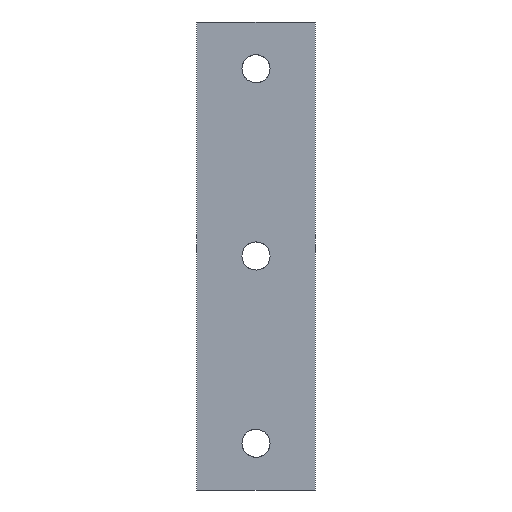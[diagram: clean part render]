
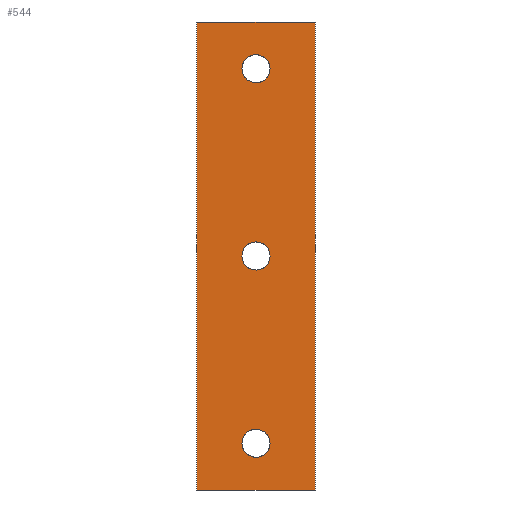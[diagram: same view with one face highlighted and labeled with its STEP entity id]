
A CAD part, front view. The second image highlights one B-rep face of the part: STEP entity #544.
In plain terms, the highlighted face is a extrusion surface.
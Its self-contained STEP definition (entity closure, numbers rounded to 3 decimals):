
#397=CARTESIAN_POINT('Control Point',(-38.,0.,0.)) ;
#398=CARTESIAN_POINT('Control Point',(-38.,0.,-150.)) ;
#402=CARTESIAN_POINT('Line Origine',(-19.,0.,-150.)) ;
#406=CARTESIAN_POINT('Vertex',(-38.,0.,-150.)) ;
#408=CARTESIAN_POINT('Vertex',(0.,0.,-150.)) ;
#411=CARTESIAN_POINT('Line Origine',(0.,0.,-75.)) ;
#415=CARTESIAN_POINT('Vertex',(0.,0.,0.)) ;
#418=CARTESIAN_POINT('Line Origine',(-19.,0.,0.)) ;
#422=CARTESIAN_POINT('Vertex',(-38.,0.,0.)) ;
#425=CARTESIAN_POINT('Line Origine',(-38.,0.,-75.)) ;
#437=CARTESIAN_POINT('Control Point',(-14.5,0.,-75.)) ;
#438=CARTESIAN_POINT('Control Point',(-14.5,0.,-76.247)) ;
#439=CARTESIAN_POINT('Control Point',(-14.932,0.,-77.494)) ;
#440=CARTESIAN_POINT('Control Point',(-15.8,0.,-78.539)) ;
#441=CARTESIAN_POINT('Control Point',(-17.71,0.,-79.63)) ;
#442=CARTESIAN_POINT('Control Point',(-19.841,0.,-79.54)) ;
#443=CARTESIAN_POINT('Control Point',(-20.671,0.,-79.305)) ;
#444=CARTESIAN_POINT('Control Point',(-22.085,0.,-78.511)) ;
#445=CARTESIAN_POINT('Control Point',(-23.032,0.,-77.204)) ;
#446=CARTESIAN_POINT('Control Point',(-23.344,0.,-76.498)) ;
#447=CARTESIAN_POINT('Control Point',(-23.5,0.,-75.749)) ;
#448=CARTESIAN_POINT('Control Point',(-23.5,0.,-75.)) ;
#449=CARTESIAN_POINT('Vertex',(-14.5,0.,-75.)) ;
#451=CARTESIAN_POINT('Vertex',(-23.5,0.,-75.)) ;
#455=CARTESIAN_POINT('Control Point',(-23.5,0.,-75.)) ;
#456=CARTESIAN_POINT('Control Point',(-23.5,0.,-73.753)) ;
#457=CARTESIAN_POINT('Control Point',(-23.068,0.,-72.506)) ;
#458=CARTESIAN_POINT('Control Point',(-22.2,0.,-71.461)) ;
#459=CARTESIAN_POINT('Control Point',(-20.29,0.,-70.37)) ;
#460=CARTESIAN_POINT('Control Point',(-18.159,0.,-70.46)) ;
#461=CARTESIAN_POINT('Control Point',(-17.329,0.,-70.695)) ;
#462=CARTESIAN_POINT('Control Point',(-15.915,0.,-71.489)) ;
#463=CARTESIAN_POINT('Control Point',(-14.968,0.,-72.796)) ;
#464=CARTESIAN_POINT('Control Point',(-14.656,0.,-73.502)) ;
#465=CARTESIAN_POINT('Control Point',(-14.5,0.,-74.251)) ;
#466=CARTESIAN_POINT('Control Point',(-14.5,0.,-75.)) ;
#473=CARTESIAN_POINT('Control Point',(-14.5,0.,-135.)) ;
#474=CARTESIAN_POINT('Control Point',(-14.5,0.,-136.247)) ;
#475=CARTESIAN_POINT('Control Point',(-14.932,0.,-137.494)) ;
#476=CARTESIAN_POINT('Control Point',(-15.8,0.,-138.539)) ;
#477=CARTESIAN_POINT('Control Point',(-17.71,0.,-139.63)) ;
#478=CARTESIAN_POINT('Control Point',(-19.841,0.,-139.54)) ;
#479=CARTESIAN_POINT('Control Point',(-20.671,0.,-139.305)) ;
#480=CARTESIAN_POINT('Control Point',(-22.085,0.,-138.511)) ;
#481=CARTESIAN_POINT('Control Point',(-23.032,0.,-137.204)) ;
#482=CARTESIAN_POINT('Control Point',(-23.344,0.,-136.498)) ;
#483=CARTESIAN_POINT('Control Point',(-23.5,0.,-135.749)) ;
#484=CARTESIAN_POINT('Control Point',(-23.5,0.,-135.)) ;
#485=CARTESIAN_POINT('Vertex',(-14.5,0.,-135.)) ;
#487=CARTESIAN_POINT('Vertex',(-23.5,0.,-135.)) ;
#491=CARTESIAN_POINT('Control Point',(-23.5,0.,-135.)) ;
#492=CARTESIAN_POINT('Control Point',(-23.5,0.,-133.753)) ;
#493=CARTESIAN_POINT('Control Point',(-23.068,0.,-132.506)) ;
#494=CARTESIAN_POINT('Control Point',(-22.2,0.,-131.461)) ;
#495=CARTESIAN_POINT('Control Point',(-20.29,0.,-130.37)) ;
#496=CARTESIAN_POINT('Control Point',(-18.159,0.,-130.46)) ;
#497=CARTESIAN_POINT('Control Point',(-17.329,0.,-130.695)) ;
#498=CARTESIAN_POINT('Control Point',(-15.915,0.,-131.489)) ;
#499=CARTESIAN_POINT('Control Point',(-14.968,0.,-132.796)) ;
#500=CARTESIAN_POINT('Control Point',(-14.656,0.,-133.502)) ;
#501=CARTESIAN_POINT('Control Point',(-14.5,0.,-134.251)) ;
#502=CARTESIAN_POINT('Control Point',(-14.5,0.,-135.)) ;
#509=CARTESIAN_POINT('Control Point',(-14.5,0.,-15.)) ;
#510=CARTESIAN_POINT('Control Point',(-14.5,0.,-16.247)) ;
#511=CARTESIAN_POINT('Control Point',(-14.932,0.,-17.494)) ;
#512=CARTESIAN_POINT('Control Point',(-15.8,0.,-18.539)) ;
#513=CARTESIAN_POINT('Control Point',(-17.71,0.,-19.63)) ;
#514=CARTESIAN_POINT('Control Point',(-19.841,0.,-19.54)) ;
#515=CARTESIAN_POINT('Control Point',(-20.671,0.,-19.305)) ;
#516=CARTESIAN_POINT('Control Point',(-22.085,0.,-18.511)) ;
#517=CARTESIAN_POINT('Control Point',(-23.032,0.,-17.204)) ;
#518=CARTESIAN_POINT('Control Point',(-23.344,0.,-16.498)) ;
#519=CARTESIAN_POINT('Control Point',(-23.5,0.,-15.749)) ;
#520=CARTESIAN_POINT('Control Point',(-23.5,0.,-15.)) ;
#521=CARTESIAN_POINT('Vertex',(-14.5,0.,-15.)) ;
#523=CARTESIAN_POINT('Vertex',(-23.5,0.,-15.)) ;
#527=CARTESIAN_POINT('Control Point',(-23.5,0.,-15.)) ;
#528=CARTESIAN_POINT('Control Point',(-23.5,0.,-13.753)) ;
#529=CARTESIAN_POINT('Control Point',(-23.068,0.,-12.506)) ;
#530=CARTESIAN_POINT('Control Point',(-22.2,0.,-11.461)) ;
#531=CARTESIAN_POINT('Control Point',(-20.29,0.,-10.37)) ;
#532=CARTESIAN_POINT('Control Point',(-18.159,0.,-10.46)) ;
#533=CARTESIAN_POINT('Control Point',(-17.329,0.,-10.695)) ;
#534=CARTESIAN_POINT('Control Point',(-15.915,0.,-11.489)) ;
#535=CARTESIAN_POINT('Control Point',(-14.968,0.,-12.796)) ;
#536=CARTESIAN_POINT('Control Point',(-14.656,0.,-13.502)) ;
#537=CARTESIAN_POINT('Control Point',(-14.5,0.,-14.251)) ;
#538=CARTESIAN_POINT('Control Point',(-14.5,0.,-15.)) ;
#399=DIRECTION('Vector Direction',(1.,0.,0.)) ;
#403=DIRECTION('Vector Direction',(1.,0.,0.)) ;
#412=DIRECTION('Vector Direction',(0.,0.,-1.)) ;
#419=DIRECTION('Vector Direction',(1.,0.,0.)) ;
#426=DIRECTION('Vector Direction',(0.,0.,-1.)) ;
#431=ORIENTED_EDGE('',*,*,#410,.T.) ;
#432=ORIENTED_EDGE('',*,*,#417,.T.) ;
#433=ORIENTED_EDGE('',*,*,#424,.T.) ;
#434=ORIENTED_EDGE('',*,*,#429,.T.) ;
#469=ORIENTED_EDGE('',*,*,#453,.T.) ;
#470=ORIENTED_EDGE('',*,*,#467,.T.) ;
#505=ORIENTED_EDGE('',*,*,#489,.T.) ;
#506=ORIENTED_EDGE('',*,*,#503,.T.) ;
#541=ORIENTED_EDGE('',*,*,#525,.T.) ;
#542=ORIENTED_EDGE('',*,*,#539,.T.) ;
#471=FACE_BOUND('',#468,.T.) ;
#507=FACE_BOUND('',#504,.T.) ;
#543=FACE_BOUND('',#540,.T.) ;
#400=VECTOR('Extrusion Surface Vector',#399,1.) ;
#404=VECTOR('Line Direction',#403,1.) ;
#413=VECTOR('Line Direction',#412,1.) ;
#420=VECTOR('Line Direction',#419,1.) ;
#427=VECTOR('Line Direction',#426,1.) ;
#544=ADVANCED_FACE('Superficie.6',(#435,#471,#507,#543),#401,.T.) ;
#396=B_SPLINE_CURVE_WITH_KNOTS('',1,(#397,#398),.UNSPECIFIED.,.F.,.U.,(2,2),(-75.,75.),.UNSPECIFIED.) ;
#436=B_SPLINE_CURVE_WITH_KNOTS('',5,(#437,#438,#439,#440,#441,#442,#443,#444,#445,#446,#447,#448),.UNSPECIFIED.,.F.,.U.,(6,3,3,6),(0.,8.818,14.697,19.993),.UNSPECIFIED.) ;
#454=B_SPLINE_CURVE_WITH_KNOTS('',5,(#455,#456,#457,#458,#459,#460,#461,#462,#463,#464,#465,#466),.UNSPECIFIED.,.F.,.U.,(6,3,3,6),(0.,8.818,14.697,19.993),.UNSPECIFIED.) ;
#472=B_SPLINE_CURVE_WITH_KNOTS('',5,(#473,#474,#475,#476,#477,#478,#479,#480,#481,#482,#483,#484),.UNSPECIFIED.,.F.,.U.,(6,3,3,6),(0.,8.818,14.697,19.993),.UNSPECIFIED.) ;
#490=B_SPLINE_CURVE_WITH_KNOTS('',5,(#491,#492,#493,#494,#495,#496,#497,#498,#499,#500,#501,#502),.UNSPECIFIED.,.F.,.U.,(6,3,3,6),(0.,8.818,14.697,19.993),.UNSPECIFIED.) ;
#508=B_SPLINE_CURVE_WITH_KNOTS('',5,(#509,#510,#511,#512,#513,#514,#515,#516,#517,#518,#519,#520),.UNSPECIFIED.,.F.,.U.,(6,3,3,6),(0.,8.818,14.697,19.993),.UNSPECIFIED.) ;
#526=B_SPLINE_CURVE_WITH_KNOTS('',5,(#527,#528,#529,#530,#531,#532,#533,#534,#535,#536,#537,#538),.UNSPECIFIED.,.F.,.U.,(6,3,3,6),(0.,8.818,14.697,19.993),.UNSPECIFIED.) ;
#410=EDGE_CURVE('',#407,#409,#405,.T.) ;
#417=EDGE_CURVE('',#409,#416,#414,.F.) ;
#424=EDGE_CURVE('',#416,#423,#421,.F.) ;
#429=EDGE_CURVE('',#423,#407,#428,.T.) ;
#453=EDGE_CURVE('',#450,#452,#436,.T.) ;
#467=EDGE_CURVE('',#452,#450,#454,.T.) ;
#489=EDGE_CURVE('',#486,#488,#472,.T.) ;
#503=EDGE_CURVE('',#488,#486,#490,.T.) ;
#525=EDGE_CURVE('',#522,#524,#508,.T.) ;
#539=EDGE_CURVE('',#524,#522,#526,.T.) ;
#430=EDGE_LOOP('',(#431,#432,#433,#434)) ;
#468=EDGE_LOOP('',(#469,#470)) ;
#504=EDGE_LOOP('',(#505,#506)) ;
#540=EDGE_LOOP('',(#541,#542)) ;
#435=FACE_OUTER_BOUND('',#430,.T.) ;
#405=LINE('Line',#402,#404) ;
#414=LINE('Line',#411,#413) ;
#421=LINE('Line',#418,#420) ;
#428=LINE('Line',#425,#427) ;
#401=SURFACE_OF_LINEAR_EXTRUSION('generated tabulated cylinder',#396,#400) ;
#407=VERTEX_POINT('',#406) ;
#409=VERTEX_POINT('',#408) ;
#416=VERTEX_POINT('',#415) ;
#423=VERTEX_POINT('',#422) ;
#450=VERTEX_POINT('',#449) ;
#452=VERTEX_POINT('',#451) ;
#486=VERTEX_POINT('',#485) ;
#488=VERTEX_POINT('',#487) ;
#522=VERTEX_POINT('',#521) ;
#524=VERTEX_POINT('',#523) ;
